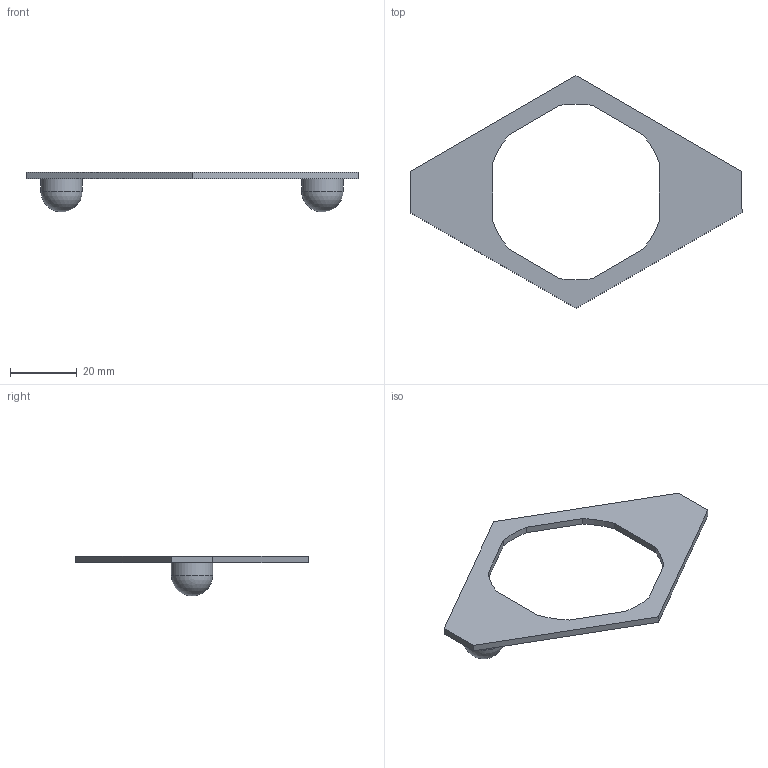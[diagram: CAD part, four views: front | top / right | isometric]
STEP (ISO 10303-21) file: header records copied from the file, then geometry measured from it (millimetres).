
FILE_DESCRIPTION(/* description */ (''),/* implementation_level */ '2;1');
FILE_NAME(/* name */ 'D:/Dokumenty/3D/Luke''s 3D/Projects/Spool winder v3/STEP/Socket spool adapter.step',/* time_stamp */ '2021-11-14T12:57:56+01:00',/* author */ (''),/* organization */ (''),/* preprocessor_version */ 'ST-DEVELOPER v18.1',/* originating_system */ 'Autodesk Translation Framework v10.10.0.1391',/* authorisation */ '');
FILE_SCHEMA (('AUTOMOTIVE_DESIGN { 1 0 10303 214 3 1 1 }'));
Length unit declared in the file: millimetre
Products named in the file (2): Bearing socket adapter 2; Spool adapter 1
Assembly tree (1 placements, depth 2):
  Bearing socket adapter 2
    Spool adapter 1
Bounding box: 99.82 x 70 x 12 mm (x, y, z)
Volume: 5964.9 mm3; surface area: 5401.3 mm2
Topology: 1 solids, 1 shells, 24 faces, 64 edges, 42 vertices
Faces by surface type: plane 14, cylinder 8, sphere 2
Full cylindrical faces by diameter (mm): 12.5 x2
Entity records: 804 total; most frequent: DIRECTION 134, CARTESIAN_POINT 131, ORIENTED_EDGE 124, EDGE_CURVE 62, AXIS2_PLACEMENT_3D 45, LINE 44, VECTOR 44, VERTEX_POINT 42
